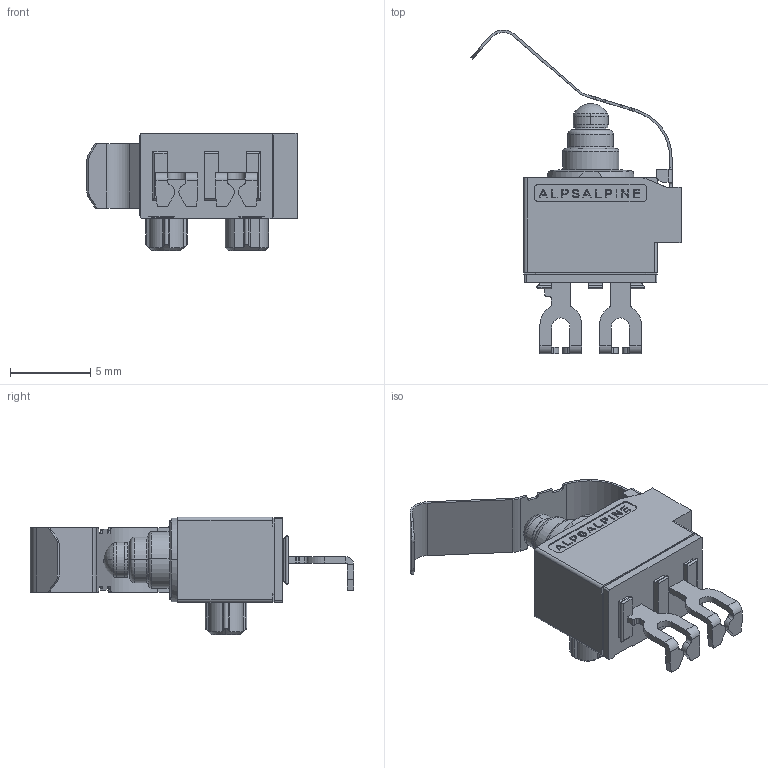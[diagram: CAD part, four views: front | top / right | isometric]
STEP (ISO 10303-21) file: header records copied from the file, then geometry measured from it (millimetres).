
FILE_DESCRIPTION (( 'STEP AP214' ), '1' );
FILE_NAME ('SOLID^SPVQ812300.STEP', '2021-03-01T23:51:39', ( '' ), ( '' ), 'SwSTEP 2.0', 'SolidWorks 2019', '' );
FILE_SCHEMA (( 'AUTOMOTIVE_DESIGN' ));
Length unit declared in the file: millimetre
Products named in the file (1): SOLID^SPVQ812300
Bounding box: 13.06 x 20.12 x 7.3 mm (x, y, z)
Volume: 379.2 mm3; surface area: 601 mm2
Topology: 1 solids, 1 shells, 548 faces, 1463 edges, 944 vertices
Faces by surface type: plane 268, cylinder 138, bspline 99, cone 18, torus 17, sphere 8
Entity records: 26165 total; most frequent: CARTESIAN_POINT 7069, ORIENTED_EDGE 2918, DIRECTION 2433, EDGE_CURVE 1459, VERTEX_POINT 944, LINE 901, VECTOR 901, AXIS2_PLACEMENT_3D 766
